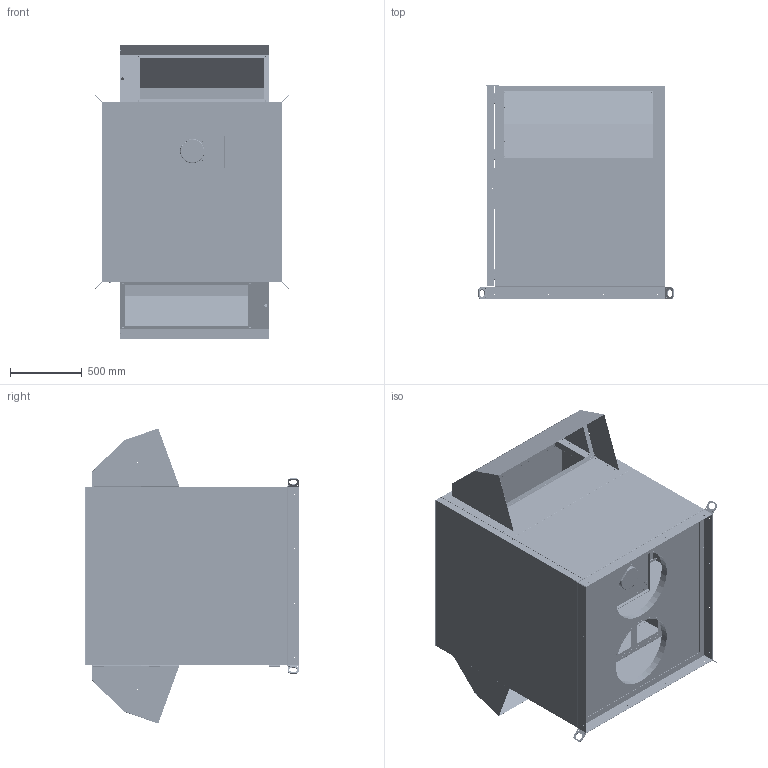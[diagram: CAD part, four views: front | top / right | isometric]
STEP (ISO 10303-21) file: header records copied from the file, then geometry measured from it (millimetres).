
FILE_DESCRIPTION(/* description */ ('Alibre Inc.'),/* implementation_level */ '2;1');
FILE_NAME(/* name */ 'export1',/* time_stamp */ '2017-01-18T08:34:58+01:00',/* author */ (''),/* organization */ (''),/* preprocessor_version */ 'ST-DEVELOPER v14',/* originating_system */ 'Alibre',/* authorisation */ '');
FILE_SCHEMA (('AUTOMOTIVE_DESIGN'));
Length unit declared in the file: centimetre
Bounding box: 1359.87 x 1488.54 x 2055.23 mm (x, y, z)
Volume: 310935247.9 mm3; surface area: 65559722.1 mm2
Topology: 78 solids, 80 shells, 5324 faces, 13396 edges, 8493 vertices
Faces by surface type: plane 2610, cylinder 2299, torus 204, bspline 108, cone 91, sphere 12
Full cylindrical faces by diameter (mm): 3.3 x284, 5 x358, 6 x27, 6.2 x9, 8 x3, 8.2 x3, 9 x20, 10 x16, 11 x12, 12.5 x6, 13 x6, 21 x11, 502 x2, 503.26 x2, 504 x2, 505 x2, 506 x2, 506.26 x2, 526 x2, 529 x2
Entity records: 106660 total; most frequent: CARTESIAN_POINT 21070, ORIENTED_EDGE 16478, DIRECTION 16203, EDGE_CURVE 8237, AXIS2_PLACEMENT_3D 6860, EDGE_LOOP 5720, FACE_BOUND 5720, VERTEX_POINT 5627
